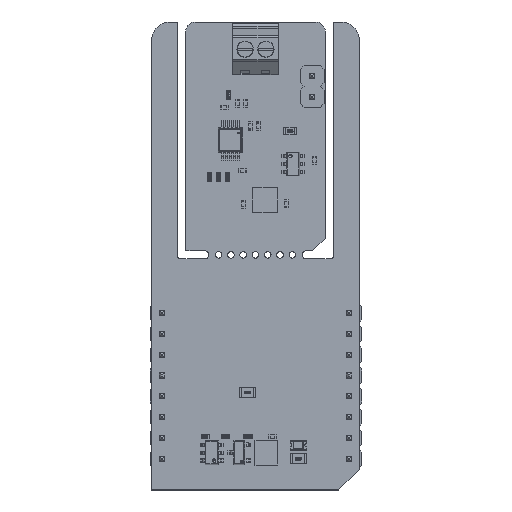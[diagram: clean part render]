
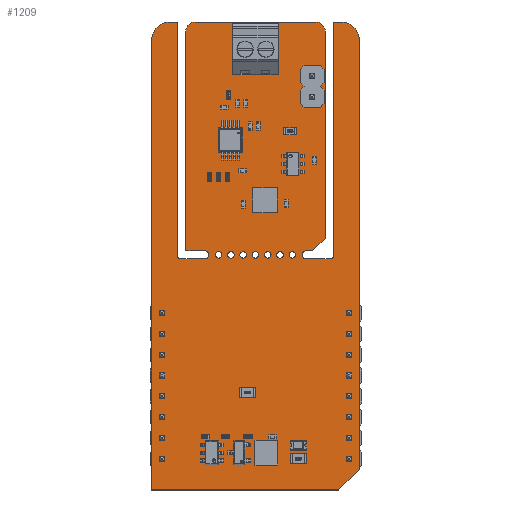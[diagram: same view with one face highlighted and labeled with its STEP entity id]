
A CAD part, top view. The second image highlights one B-rep face of the part: STEP entity #1209.
In plain terms, the highlighted planar face has unit normal (0, 0, 1).
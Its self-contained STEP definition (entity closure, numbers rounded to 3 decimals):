
#172 = VERTEX_POINT('',#173);
#173 = CARTESIAN_POINT('',(1.905,24.8,1.59));
#179 = EDGE_CURVE('',#172,#180,#182,.T.);
#180 = VERTEX_POINT('',#181);
#181 = CARTESIAN_POINT('',(2.305,24.4,1.59));
#182 = CIRCLE('',#183,0.399);
#183 = AXIS2_PLACEMENT_3D('',#184,#185,#186);
#184 = CARTESIAN_POINT('',(2.304,24.799,1.59));
#185 = DIRECTION('',(0.,0.,1.));
#186 = DIRECTION('',(-1.,0.001,0.));
#212 = EDGE_CURVE('',#180,#213,#215,.T.);
#213 = VERTEX_POINT('',#214);
#214 = CARTESIAN_POINT('',(5.23,24.4,1.59));
#215 = LINE('',#216,#217);
#216 = CARTESIAN_POINT('',(2.305,24.4,1.59));
#217 = VECTOR('',#218,1.);
#218 = DIRECTION('',(1.,0.,0.));
#243 = EDGE_CURVE('',#213,#244,#246,.T.);
#244 = VERTEX_POINT('',#245);
#245 = CARTESIAN_POINT('',(5.23,25.4,1.59));
#246 = CIRCLE('',#247,0.5);
#247 = AXIS2_PLACEMENT_3D('',#248,#249,#250);
#248 = CARTESIAN_POINT('',(5.23,24.9,1.59));
#249 = DIRECTION('',(0.,0.,1.));
#250 = DIRECTION('',(-0.,-1.,0.));
#276 = EDGE_CURVE('',#244,#277,#279,.T.);
#277 = VERTEX_POINT('',#278);
#278 = CARTESIAN_POINT('',(2.921,25.4,1.59));
#279 = LINE('',#280,#281);
#280 = CARTESIAN_POINT('',(5.23,25.4,1.59));
#281 = VECTOR('',#282,1.);
#282 = DIRECTION('',(-1.,0.,0.));
#307 = EDGE_CURVE('',#277,#308,#310,.T.);
#308 = VERTEX_POINT('',#309);
#309 = CARTESIAN_POINT('',(2.921,52.197,1.59));
#310 = LINE('',#311,#312);
#311 = CARTESIAN_POINT('',(2.921,25.4,1.59));
#312 = VECTOR('',#313,1.);
#313 = DIRECTION('',(0.,1.,0.));
#338 = EDGE_CURVE('',#308,#339,#341,.T.);
#339 = VERTEX_POINT('',#340);
#340 = CARTESIAN_POINT('',(4.064,53.34,1.59));
#341 = CIRCLE('',#342,1.144);
#342 = AXIS2_PLACEMENT_3D('',#343,#344,#345);
#343 = CARTESIAN_POINT('',(4.065,52.196,1.59));
#344 = DIRECTION('',(0.,0.,-1.));
#345 = DIRECTION('',(-1.,0.001,0.));
#371 = EDGE_CURVE('',#339,#372,#374,.T.);
#372 = VERTEX_POINT('',#373);
#373 = CARTESIAN_POINT('',(18.796,53.34,1.59));
#374 = LINE('',#375,#376);
#375 = CARTESIAN_POINT('',(4.064,53.34,1.59));
#376 = VECTOR('',#377,1.);
#377 = DIRECTION('',(1.,0.,0.));
#402 = EDGE_CURVE('',#372,#403,#405,.T.);
#403 = VERTEX_POINT('',#404);
#404 = CARTESIAN_POINT('',(19.939,52.197,1.59));
#405 = CIRCLE('',#406,1.144);
#406 = AXIS2_PLACEMENT_3D('',#407,#408,#409);
#407 = CARTESIAN_POINT('',(18.795,52.196,1.59));
#408 = DIRECTION('',(0.,0.,-1.));
#409 = DIRECTION('',(0.001,1.,0.));
#435 = EDGE_CURVE('',#403,#436,#438,.T.);
#436 = VERTEX_POINT('',#437);
#437 = CARTESIAN_POINT('',(19.939,26.924,1.59));
#438 = LINE('',#439,#440);
#439 = CARTESIAN_POINT('',(19.939,52.197,1.59));
#440 = VECTOR('',#441,1.);
#441 = DIRECTION('',(0.,-1.,0.));
#466 = EDGE_CURVE('',#436,#467,#469,.T.);
#467 = VERTEX_POINT('',#468);
#468 = CARTESIAN_POINT('',(18.415,25.4,1.59));
#469 = LINE('',#470,#471);
#470 = CARTESIAN_POINT('',(19.939,26.924,1.59));
#471 = VECTOR('',#472,1.);
#472 = DIRECTION('',(-0.707,-0.707,0.));
#497 = EDGE_CURVE('',#467,#498,#500,.T.);
#498 = VERTEX_POINT('',#499);
#499 = CARTESIAN_POINT('',(17.63,25.4,1.59));
#500 = LINE('',#501,#502);
#501 = CARTESIAN_POINT('',(18.415,25.4,1.59));
#502 = VECTOR('',#503,1.);
#503 = DIRECTION('',(-1.,0.,0.));
#528 = EDGE_CURVE('',#498,#529,#531,.T.);
#529 = VERTEX_POINT('',#530);
#530 = CARTESIAN_POINT('',(17.63,24.4,1.59));
#531 = CIRCLE('',#532,0.5);
#532 = AXIS2_PLACEMENT_3D('',#533,#534,#535);
#533 = CARTESIAN_POINT('',(17.63,24.9,1.59));
#534 = DIRECTION('',(0.,-0.,1.));
#535 = DIRECTION('',(0.,1.,0.));
#561 = EDGE_CURVE('',#529,#562,#564,.T.);
#562 = VERTEX_POINT('',#563);
#563 = CARTESIAN_POINT('',(20.555,24.4,1.59));
#564 = LINE('',#565,#566);
#565 = CARTESIAN_POINT('',(17.63,24.4,1.59));
#566 = VECTOR('',#567,1.);
#567 = DIRECTION('',(1.,0.,0.));
#592 = EDGE_CURVE('',#562,#593,#595,.T.);
#593 = VERTEX_POINT('',#594);
#594 = CARTESIAN_POINT('',(20.955,24.8,1.59));
#595 = CIRCLE('',#596,0.399);
#596 = AXIS2_PLACEMENT_3D('',#597,#598,#599);
#597 = CARTESIAN_POINT('',(20.556,24.799,1.59));
#598 = DIRECTION('',(0.,0.,1.));
#599 = DIRECTION('',(-0.001,-1.,0.));
#625 = EDGE_CURVE('',#593,#626,#628,.T.);
#626 = VERTEX_POINT('',#627);
#627 = CARTESIAN_POINT('',(20.955,53.34,1.59));
#628 = LINE('',#629,#630);
#629 = CARTESIAN_POINT('',(20.955,24.8,1.59));
#630 = VECTOR('',#631,1.);
#631 = DIRECTION('',(0.,1.,0.));
#656 = EDGE_CURVE('',#626,#657,#659,.T.);
#657 = VERTEX_POINT('',#658);
#658 = CARTESIAN_POINT('',(21.844,53.34,1.59));
#659 = LINE('',#660,#661);
#660 = CARTESIAN_POINT('',(20.955,53.34,1.59));
#661 = VECTOR('',#662,1.);
#662 = DIRECTION('',(1.,0.,0.));
#687 = EDGE_CURVE('',#657,#688,#690,.T.);
#688 = VERTEX_POINT('',#689);
#689 = CARTESIAN_POINT('',(24.13,51.054,1.59));
#690 = CIRCLE('',#691,2.288);
#691 = AXIS2_PLACEMENT_3D('',#692,#693,#694);
#692 = CARTESIAN_POINT('',(21.842,51.052,1.59));
#693 = DIRECTION('',(0.,0.,-1.));
#694 = DIRECTION('',(0.001,1.,0.));
#720 = EDGE_CURVE('',#688,#721,#723,.T.);
#721 = VERTEX_POINT('',#722);
#722 = CARTESIAN_POINT('',(24.13,-1.27,1.59));
#723 = LINE('',#724,#725);
#724 = CARTESIAN_POINT('',(24.13,51.054,1.59));
#725 = VECTOR('',#726,1.);
#726 = DIRECTION('',(0.,-1.,0.));
#751 = EDGE_CURVE('',#721,#752,#754,.T.);
#752 = VERTEX_POINT('',#753);
#753 = CARTESIAN_POINT('',(21.59,-3.81,1.59));
#754 = LINE('',#755,#756);
#755 = CARTESIAN_POINT('',(24.13,-1.27,1.59));
#756 = VECTOR('',#757,1.);
#757 = DIRECTION('',(-0.707,-0.707,0.));
#782 = EDGE_CURVE('',#752,#783,#785,.T.);
#783 = VERTEX_POINT('',#784);
#784 = CARTESIAN_POINT('',(-1.27,-3.81,1.59));
#785 = LINE('',#786,#787);
#786 = CARTESIAN_POINT('',(21.59,-3.81,1.59));
#787 = VECTOR('',#788,1.);
#788 = DIRECTION('',(-1.,0.,0.));
#813 = EDGE_CURVE('',#783,#814,#816,.T.);
#814 = VERTEX_POINT('',#815);
#815 = CARTESIAN_POINT('',(-1.27,51.054,1.59));
#816 = LINE('',#817,#818);
#817 = CARTESIAN_POINT('',(-1.27,-3.81,1.59));
#818 = VECTOR('',#819,1.);
#819 = DIRECTION('',(0.,1.,0.));
#844 = EDGE_CURVE('',#814,#845,#847,.T.);
#845 = VERTEX_POINT('',#846);
#846 = CARTESIAN_POINT('',(1.016,53.34,1.59));
#847 = CIRCLE('',#848,2.288);
#848 = AXIS2_PLACEMENT_3D('',#849,#850,#851);
#849 = CARTESIAN_POINT('',(1.018,51.052,1.59));
#850 = DIRECTION('',(0.,0.,-1.));
#851 = DIRECTION('',(-1.,0.001,0.));
#877 = EDGE_CURVE('',#845,#878,#880,.T.);
#878 = VERTEX_POINT('',#879);
#879 = CARTESIAN_POINT('',(1.905,53.34,1.59));
#880 = LINE('',#881,#882);
#881 = CARTESIAN_POINT('',(1.016,53.34,1.59));
#882 = VECTOR('',#883,1.);
#883 = DIRECTION('',(1.,0.,0.));
#908 = EDGE_CURVE('',#878,#172,#909,.T.);
#909 = LINE('',#910,#911);
#910 = CARTESIAN_POINT('',(1.905,53.34,1.59));
#911 = VECTOR('',#912,1.);
#912 = DIRECTION('',(0.,-1.,0.));
#932 = VERTEX_POINT('',#933);
#933 = CARTESIAN_POINT('',(7.33,24.9,1.59));
#939 = EDGE_CURVE('',#932,#932,#940,.T.);
#940 = CIRCLE('',#941,0.4);
#941 = AXIS2_PLACEMENT_3D('',#942,#943,#944);
#942 = CARTESIAN_POINT('',(6.93,24.9,1.59));
#943 = DIRECTION('',(0.,0.,1.));
#944 = DIRECTION('',(1.,0.,-0.));
#965 = VERTEX_POINT('',#966);
#966 = CARTESIAN_POINT('',(8.83,24.9,1.59));
#972 = EDGE_CURVE('',#965,#965,#973,.T.);
#973 = CIRCLE('',#974,0.4);
#974 = AXIS2_PLACEMENT_3D('',#975,#976,#977);
#975 = CARTESIAN_POINT('',(8.43,24.9,1.59));
#976 = DIRECTION('',(0.,0.,1.));
#977 = DIRECTION('',(1.,0.,-0.));
#998 = VERTEX_POINT('',#999);
#999 = CARTESIAN_POINT('',(10.33,24.9,1.59));
#1005 = EDGE_CURVE('',#998,#998,#1006,.T.);
#1006 = CIRCLE('',#1007,0.4);
#1007 = AXIS2_PLACEMENT_3D('',#1008,#1009,#1010);
#1008 = CARTESIAN_POINT('',(9.93,24.9,1.59));
#1009 = DIRECTION('',(0.,0.,1.));
#1010 = DIRECTION('',(1.,0.,-0.));
#1031 = VERTEX_POINT('',#1032);
#1032 = CARTESIAN_POINT('',(14.83,24.9,1.59));
#1038 = EDGE_CURVE('',#1031,#1031,#1039,.T.);
#1039 = CIRCLE('',#1040,0.4);
#1040 = AXIS2_PLACEMENT_3D('',#1041,#1042,#1043);
#1041 = CARTESIAN_POINT('',(14.43,24.9,1.59));
#1042 = DIRECTION('',(0.,0.,1.));
#1043 = DIRECTION('',(1.,0.,-0.));
#1064 = VERTEX_POINT('',#1065);
#1065 = CARTESIAN_POINT('',(16.33,24.9,1.59));
#1071 = EDGE_CURVE('',#1064,#1064,#1072,.T.);
#1072 = CIRCLE('',#1073,0.4);
#1073 = AXIS2_PLACEMENT_3D('',#1074,#1075,#1076);
#1074 = CARTESIAN_POINT('',(15.93,24.9,1.59));
#1075 = DIRECTION('',(0.,0.,1.));
#1076 = DIRECTION('',(1.,0.,-0.));
#1097 = VERTEX_POINT('',#1098);
#1098 = CARTESIAN_POINT('',(11.83,24.9,1.59));
#1104 = EDGE_CURVE('',#1097,#1097,#1105,.T.);
#1105 = CIRCLE('',#1106,0.4);
#1106 = AXIS2_PLACEMENT_3D('',#1107,#1108,#1109);
#1107 = CARTESIAN_POINT('',(11.43,24.9,1.59));
#1108 = DIRECTION('',(0.,0.,1.));
#1109 = DIRECTION('',(1.,0.,-0.));
#1130 = VERTEX_POINT('',#1131);
#1131 = CARTESIAN_POINT('',(13.33,24.9,1.59));
#1137 = EDGE_CURVE('',#1130,#1130,#1138,.T.);
#1138 = CIRCLE('',#1139,0.4);
#1139 = AXIS2_PLACEMENT_3D('',#1140,#1141,#1142);
#1140 = CARTESIAN_POINT('',(12.93,24.9,1.59));
#1141 = DIRECTION('',(0.,0.,1.));
#1142 = DIRECTION('',(1.,0.,-0.));
#1209 = ADVANCED_FACE('',(#1210,#1236,#1239,#1242,#1245,#1248,#1251,
    #1254),#1257,.F.);
#1210 = FACE_BOUND('',#1211,.F.);
#1211 = EDGE_LOOP('',(#1212,#1213,#1214,#1215,#1216,#1217,#1218,#1219,
    #1220,#1221,#1222,#1223,#1224,#1225,#1226,#1227,#1228,#1229,#1230,
    #1231,#1232,#1233,#1234,#1235));
#1212 = ORIENTED_EDGE('',*,*,#179,.T.);
#1213 = ORIENTED_EDGE('',*,*,#212,.T.);
#1214 = ORIENTED_EDGE('',*,*,#243,.T.);
#1215 = ORIENTED_EDGE('',*,*,#276,.T.);
#1216 = ORIENTED_EDGE('',*,*,#307,.T.);
#1217 = ORIENTED_EDGE('',*,*,#338,.T.);
#1218 = ORIENTED_EDGE('',*,*,#371,.T.);
#1219 = ORIENTED_EDGE('',*,*,#402,.T.);
#1220 = ORIENTED_EDGE('',*,*,#435,.T.);
#1221 = ORIENTED_EDGE('',*,*,#466,.T.);
#1222 = ORIENTED_EDGE('',*,*,#497,.T.);
#1223 = ORIENTED_EDGE('',*,*,#528,.T.);
#1224 = ORIENTED_EDGE('',*,*,#561,.T.);
#1225 = ORIENTED_EDGE('',*,*,#592,.T.);
#1226 = ORIENTED_EDGE('',*,*,#625,.T.);
#1227 = ORIENTED_EDGE('',*,*,#656,.T.);
#1228 = ORIENTED_EDGE('',*,*,#687,.T.);
#1229 = ORIENTED_EDGE('',*,*,#720,.T.);
#1230 = ORIENTED_EDGE('',*,*,#751,.T.);
#1231 = ORIENTED_EDGE('',*,*,#782,.T.);
#1232 = ORIENTED_EDGE('',*,*,#813,.T.);
#1233 = ORIENTED_EDGE('',*,*,#844,.T.);
#1234 = ORIENTED_EDGE('',*,*,#877,.T.);
#1235 = ORIENTED_EDGE('',*,*,#908,.T.);
#1236 = FACE_BOUND('',#1237,.F.);
#1237 = EDGE_LOOP('',(#1238));
#1238 = ORIENTED_EDGE('',*,*,#939,.T.);
#1239 = FACE_BOUND('',#1240,.F.);
#1240 = EDGE_LOOP('',(#1241));
#1241 = ORIENTED_EDGE('',*,*,#972,.T.);
#1242 = FACE_BOUND('',#1243,.F.);
#1243 = EDGE_LOOP('',(#1244));
#1244 = ORIENTED_EDGE('',*,*,#1005,.T.);
#1245 = FACE_BOUND('',#1246,.F.);
#1246 = EDGE_LOOP('',(#1247));
#1247 = ORIENTED_EDGE('',*,*,#1038,.T.);
#1248 = FACE_BOUND('',#1249,.F.);
#1249 = EDGE_LOOP('',(#1250));
#1250 = ORIENTED_EDGE('',*,*,#1071,.T.);
#1251 = FACE_BOUND('',#1252,.F.);
#1252 = EDGE_LOOP('',(#1253));
#1253 = ORIENTED_EDGE('',*,*,#1104,.T.);
#1254 = FACE_BOUND('',#1255,.F.);
#1255 = EDGE_LOOP('',(#1256));
#1256 = ORIENTED_EDGE('',*,*,#1137,.T.);
#1257 = PLANE('',#1258);
#1258 = AXIS2_PLACEMENT_3D('',#1259,#1260,#1261);
#1259 = CARTESIAN_POINT('',(11.331,30.13,1.59));
#1260 = DIRECTION('',(-0.,-0.,-1.));
#1261 = DIRECTION('',(-1.,0.,0.));
